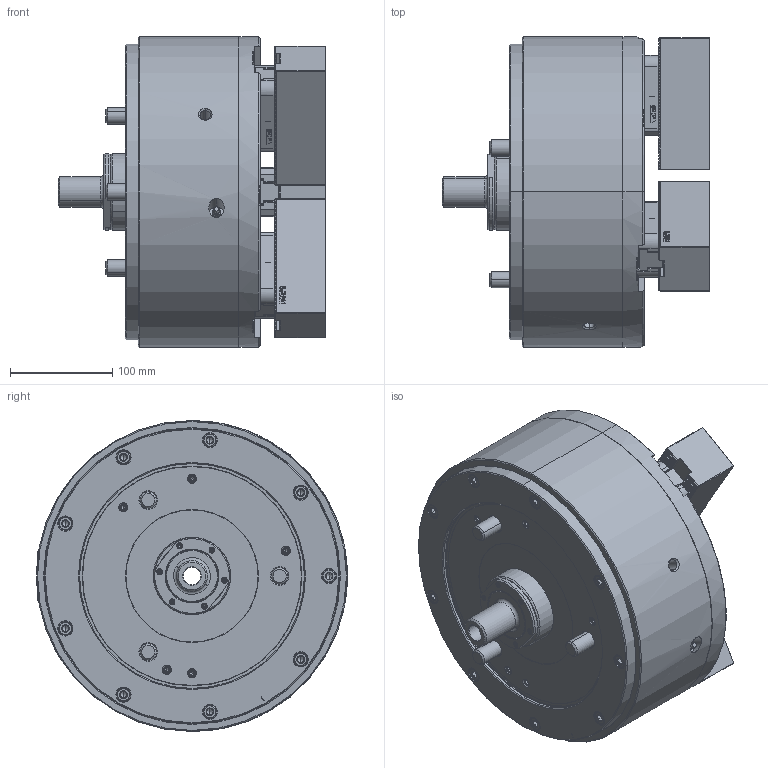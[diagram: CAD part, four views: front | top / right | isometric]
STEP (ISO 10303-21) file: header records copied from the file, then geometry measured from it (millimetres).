
FILE_DESCRIPTION (( 'STEP AP214' ), '1' );
FILE_NAME ('DL212_CL.STEP', '2022-09-08T04:32:23', ( '' ), ( '' ), 'SwSTEP 2.0', 'SolidWorks 2020', '' );
FILE_SCHEMA (( 'AUTOMOTIVE_DESIGN' ));
Length unit declared in the file: millimetre
Products named in the file (5): 61P851659; 61P458879; 0030114040; DL212_CL; 結合DL212_CL^DL212
Assembly tree (13 placements, depth 2):
  DL212_CL
    61P851659  x3
    61P458879  x3
    0030114040  x6
    結合DL212_CL^DL212
Bounding box: 261.8 x 304 x 304 mm (x, y, z)
Volume: 10126763.6 mm3; surface area: 600125.2 mm2
Topology: 13 solids, 60 shells, 6734 faces, 18524 edges, 12043 vertices
Faces by surface type: plane 4397, cylinder 888, cone 764, bspline 663, torus 22
Entity records: 186906 total; most frequent: CARTESIAN_POINT 61446, ORIENTED_EDGE 28184, DIRECTION 22430, EDGE_CURVE 14092, VECTOR 9762, LINE 9762, VERTEX_POINT 9232, AXIS2_PLACEMENT_3D 6334
